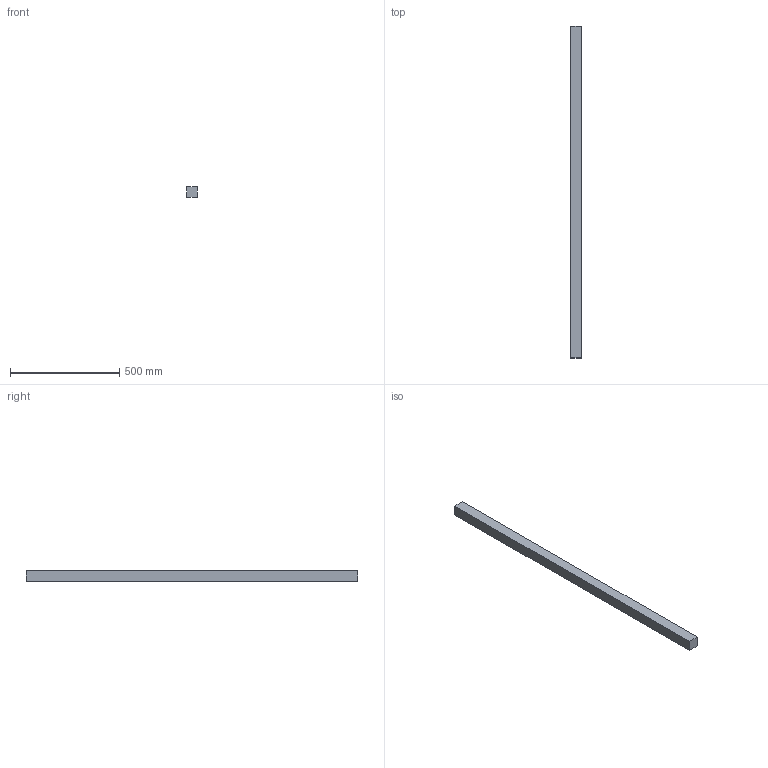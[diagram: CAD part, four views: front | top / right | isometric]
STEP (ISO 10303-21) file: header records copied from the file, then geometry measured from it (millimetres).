
FILE_DESCRIPTION(('Open CASCADE Model'),'2;1');
FILE_NAME('Open CASCADE Shape Model','2026-03-30T20:16:05',('Author'),( 'Open CASCADE'),'Open CASCADE STEP processor 7.8','Open CASCADE 7.8' ,'Unknown');
FILE_SCHEMA(('AUTOMOTIVE_DESIGN { 1 0 10303 214 1 1 1 1 }'));
Length unit declared in the file: millimetre
Products named in the file (1): Open CASCADE STEP translator 7.8 8
Bounding box: 50 x 1521 x 50 mm (x, y, z)
Volume: 3802500 mm3; surface area: 309200 mm2
Topology: 1 solids, 1 shells, 6 faces, 12 edges, 8 vertices
Faces by surface type: plane 6
Entity records: 322 total; most frequent: CARTESIAN_POINT 51, DIRECTION 50, LINE 36, VECTOR 36, ORIENTED_EDGE 24, PCURVE 24, DEFINITIONAL_REPRESENTATION 24, EDGE_CURVE 12
